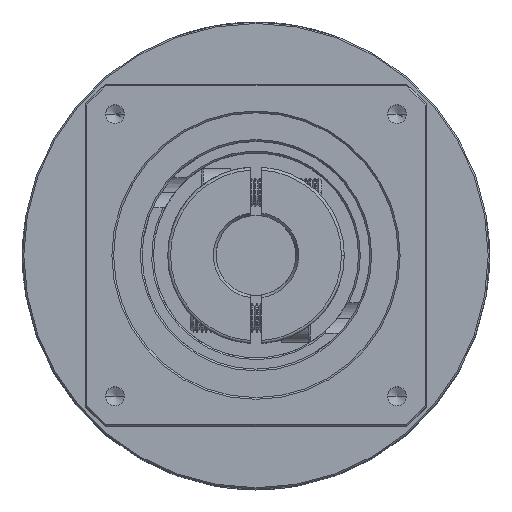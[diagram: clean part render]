
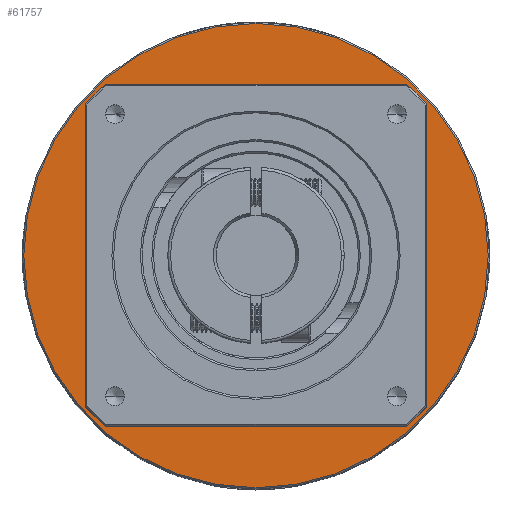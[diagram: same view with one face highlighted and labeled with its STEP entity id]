
A CAD part, top view. The second image highlights one B-rep face of the part: STEP entity #61757.
In plain terms, the highlighted planar face has unit normal (0, 0, 1).
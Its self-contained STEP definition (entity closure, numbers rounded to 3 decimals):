
#390 = VERTEX_POINT ( 'NONE', #80398 ) ;
#3739 = DIRECTION ( 'NONE',  ( -1., 0., 0. ) ) ;
#6278 = DIRECTION ( 'NONE',  ( 0., 0., -1. ) ) ;
#6615 = FACE_BOUND ( 'NONE', #59119, .T. ) ;
#7769 = CIRCLE ( 'NONE', #36561, 40.75 ) ;
#8624 = CIRCLE ( 'NONE', #61018, 30. ) ;
#9659 = EDGE_CURVE ( 'NONE', #390, #23878, #7769, .T. ) ;
#11889 = EDGE_CURVE ( 'NONE', #103387, #18966, #14128, .T. ) ;
#12628 = AXIS2_PLACEMENT_3D ( 'NONE', #83106, #32760, #91542 ) ;
#14128 = CIRCLE ( 'NONE', #54633, 30. ) ;
#17905 = ORIENTED_EDGE ( 'NONE', *, *, #47608, .F. ) ;
#18966 = VERTEX_POINT ( 'NONE', #90704 ) ;
#23878 = VERTEX_POINT ( 'NONE', #98208 ) ;
#30740 = CARTESIAN_POINT ( 'NONE',  ( -59.66, 18.952, -4.364 ) ) ;
#31735 = FACE_OUTER_BOUND ( 'NONE', #107554, .T. ) ;
#31928 = ORIENTED_EDGE ( 'NONE', *, *, #11889, .T. ) ;
#32760 = DIRECTION ( 'NONE',  ( 0., 0., 1. ) ) ;
#33874 = ORIENTED_EDGE ( 'NONE', *, *, #100569, .T. ) ;
#36561 = AXIS2_PLACEMENT_3D ( 'NONE', #104387, #54263, #3739 ) ;
#39219 = DIRECTION ( 'NONE',  ( -1., 0., 0. ) ) ;
#42883 = CIRCLE ( 'NONE', #83577, 40.75 ) ;
#47608 = EDGE_CURVE ( 'NONE', #23878, #390, #42883, .T. ) ;
#48226 = DIRECTION ( 'NONE',  ( 0., 0., -1. ) ) ;
#54263 = DIRECTION ( 'NONE',  ( 0., 0., -1. ) ) ;
#54633 = AXIS2_PLACEMENT_3D ( 'NONE', #56789, #6278, #65300 ) ;
#56789 = CARTESIAN_POINT ( 'NONE',  ( -59.66, 18.952, -4.364 ) ) ;
#58369 = ORIENTED_EDGE ( 'NONE', *, *, #9659, .F. ) ;
#59119 = EDGE_LOOP ( 'NONE', ( #31928, #33874 ) ) ;
#61018 = AXIS2_PLACEMENT_3D ( 'NONE', #30740, #89561, #39219 ) ;
#61757 = ADVANCED_FACE ( 'NONE', ( #31735, #6615 ), #91174, .T. ) ;
#65300 = DIRECTION ( 'NONE',  ( -1., 0., 0. ) ) ;
#80398 = CARTESIAN_POINT ( 'NONE',  ( -100.41, 18.952, -4.364 ) ) ;
#80615 = CARTESIAN_POINT ( 'NONE',  ( -89.66, 18.952, -4.364 ) ) ;
#83106 = CARTESIAN_POINT ( 'NONE',  ( -59.66, 18.952, -4.364 ) ) ;
#83577 = AXIS2_PLACEMENT_3D ( 'NONE', #98527, #48226, #106878 ) ;
#89561 = DIRECTION ( 'NONE',  ( 0., 0., -1. ) ) ;
#90704 = CARTESIAN_POINT ( 'NONE',  ( -29.66, 18.952, -4.364 ) ) ;
#91174 = PLANE ( 'NONE',  #12628 ) ;
#91542 = DIRECTION ( 'NONE',  ( 1., 0., 0. ) ) ;
#98208 = CARTESIAN_POINT ( 'NONE',  ( -18.91, 18.952, -4.364 ) ) ;
#98527 = CARTESIAN_POINT ( 'NONE',  ( -59.66, 18.952, -4.364 ) ) ;
#100569 = EDGE_CURVE ( 'NONE', #18966, #103387, #8624, .T. ) ;
#103387 = VERTEX_POINT ( 'NONE', #80615 ) ;
#104387 = CARTESIAN_POINT ( 'NONE',  ( -59.66, 18.952, -4.364 ) ) ;
#106878 = DIRECTION ( 'NONE',  ( -1., 0., 0. ) ) ;
#107554 = EDGE_LOOP ( 'NONE', ( #58369, #17905 ) ) ;
